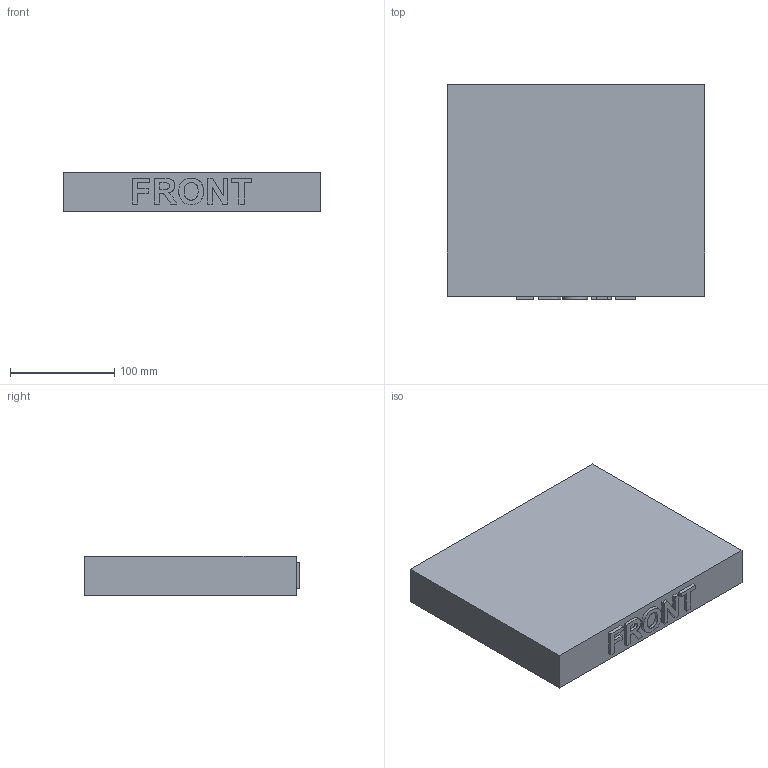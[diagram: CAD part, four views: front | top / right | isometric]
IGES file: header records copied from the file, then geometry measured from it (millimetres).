
Start section: Comment
Global section: file name: 2050-lid_internal_tub.igs; native system:  By UGS Corp.; preprocessor: XPlus GENERIC/IGES 3.0; author: Author; organization: Title; date: 20100512.134529; units: millimetre
Bounding box: 247.65 x 206.38 x 38.1 mm (x, y, z)
Surface area: 157903.5 mm2 (no closed solid volume)
Topology: 0 solids, 0 shells, 153 faces, 840 edges, 824 vertices
Faces by surface type: bspline 153
